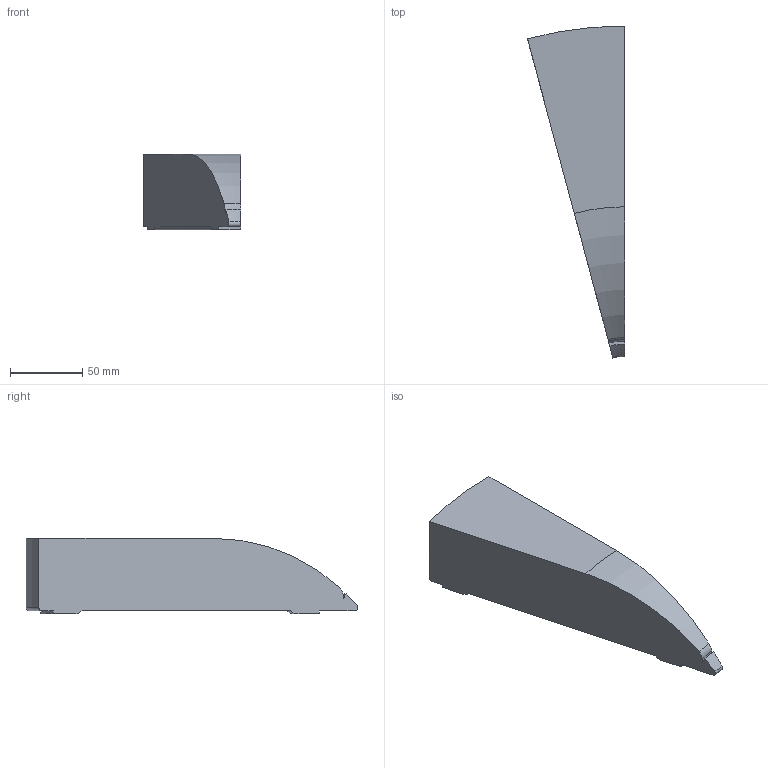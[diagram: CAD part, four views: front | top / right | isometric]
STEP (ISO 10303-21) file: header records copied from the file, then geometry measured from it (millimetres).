
FILE_DESCRIPTION(/* description */ ('Unknown'),/* implementation_level */ '2;1');
FILE_NAME(/* name */ '3D_Footsie-Slim_Corner15deg',/* time_stamp */ '2024-01-11T10:01:53+01:00',/* author */ ('Unknown'),/* organization */ ('Unknown'),/* preprocessor_version */ 'ST-DEVELOPER v18.104',/* originating_system */ 'Solid Edge',/* authorisation */ 'Unknown');
FILE_SCHEMA (('AUTOMOTIVE_DESIGN {1 0 10303 214 3 1 1}'));
Length unit declared in the file: millimetre
Products named in the file (1): 3D_Footsie-Slim_Corner15deg
Bounding box: 66.99 x 229.14 x 52 mm (x, y, z)
Volume: 413456.8 mm3; surface area: 41055.1 mm2
Topology: 1 solids, 1 shells, 20 faces, 54 edges, 36 vertices
Faces by surface type: plane 8, torus 7, cylinder 3, cone 2
Entity records: 680 total; most frequent: DIRECTION 128, CARTESIAN_POINT 111, ORIENTED_EDGE 108, EDGE_CURVE 54, AXIS2_PLACEMENT_3D 53, VERTEX_POINT 36, CIRCLE 32, LINE 22
